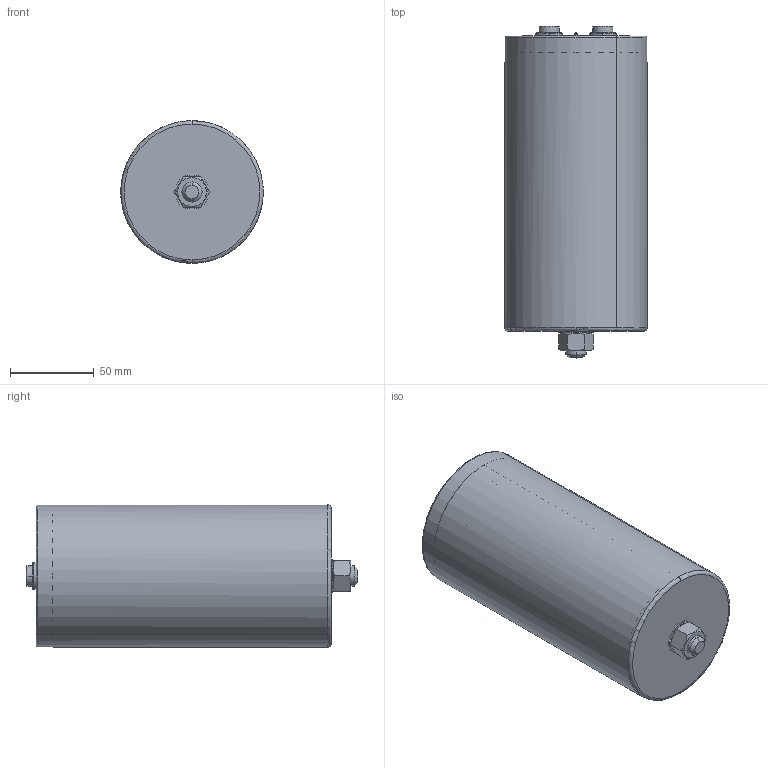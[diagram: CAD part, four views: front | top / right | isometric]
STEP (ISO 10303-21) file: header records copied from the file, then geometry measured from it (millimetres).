
FILE_DESCRIPTION (( 'STEP AP203' ), '1' );
FILE_NAME ('B25690Ax_85x176_182.STEP', '2021-08-30T08:42:40', ( '' ), ( '' ), 'SwSTEP 2.0', 'SolidWorks 2017', '' );
FILE_SCHEMA (( 'CONFIG_CONTROL_DESIGN' ));
Length unit declared in the file: millimetre
Products named in the file (1): B25690Ax_85x176_182
Bounding box: 84.88 x 198 x 85 mm (x, y, z)
Volume: 107424.3 mm3; surface area: 127804 mm2
Topology: 1 solids, 3 shells, 260 faces, 678 edges, 434 vertices
Faces by surface type: plane 122, cylinder 71, cone 41, torus 26
Entity records: 8399 total; most frequent: CARTESIAN_POINT 2041, ORIENTED_EDGE 1356, DIRECTION 1336, EDGE_CURVE 678, AXIS2_PLACEMENT_3D 537, VERTEX_POINT 434, CIRCLE 276, EDGE_LOOP 272
